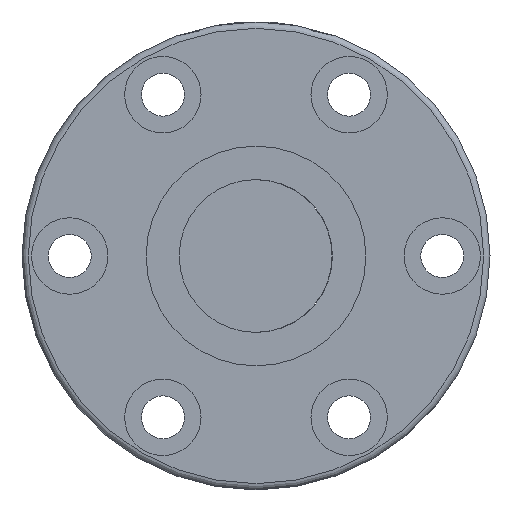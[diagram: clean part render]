
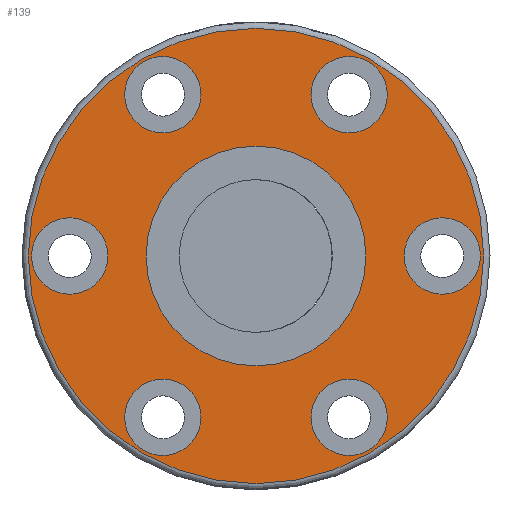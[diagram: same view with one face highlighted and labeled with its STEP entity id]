
A CAD part, front view. The second image highlights one B-rep face of the part: STEP entity #139.
In plain terms, the highlighted planar face has unit normal (0, -1, 0).
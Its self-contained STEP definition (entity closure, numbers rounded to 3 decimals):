
#113=PLANE('',#662);
#139=ADVANCED_FACE('',(#213,#214,#215,#216,#217,#218,#219,#220),#113,.F.);
#213=FACE_BOUND('',#310,.T.);
#214=FACE_BOUND('',#311,.T.);
#215=FACE_BOUND('',#312,.T.);
#216=FACE_BOUND('',#313,.T.);
#217=FACE_BOUND('',#314,.T.);
#218=FACE_BOUND('',#315,.T.);
#219=FACE_BOUND('',#316,.T.);
#220=FACE_BOUND('',#317,.T.);
#310=EDGE_LOOP('',(#408));
#311=EDGE_LOOP('',(#409));
#312=EDGE_LOOP('',(#410));
#313=EDGE_LOOP('',(#411));
#314=EDGE_LOOP('',(#412));
#315=EDGE_LOOP('',(#413));
#316=EDGE_LOOP('',(#414));
#317=EDGE_LOOP('',(#415));
#408=ORIENTED_EDGE('',*,*,#545,.T.);
#409=ORIENTED_EDGE('',*,*,#546,.T.);
#410=ORIENTED_EDGE('',*,*,#547,.T.);
#411=ORIENTED_EDGE('',*,*,#548,.T.);
#412=ORIENTED_EDGE('',*,*,#549,.T.);
#413=ORIENTED_EDGE('',*,*,#550,.T.);
#414=ORIENTED_EDGE('',*,*,#551,.T.);
#415=ORIENTED_EDGE('',*,*,#552,.F.);
#496=VERTEX_POINT('',#944);
#497=VERTEX_POINT('',#946);
#498=VERTEX_POINT('',#948);
#499=VERTEX_POINT('',#950);
#500=VERTEX_POINT('',#952);
#501=VERTEX_POINT('',#954);
#502=VERTEX_POINT('',#956);
#503=VERTEX_POINT('',#958);
#545=EDGE_CURVE('',#496,#496,#594,.T.);
#546=EDGE_CURVE('',#497,#497,#595,.T.);
#547=EDGE_CURVE('',#498,#498,#596,.T.);
#548=EDGE_CURVE('',#499,#499,#597,.T.);
#549=EDGE_CURVE('',#500,#500,#598,.T.);
#550=EDGE_CURVE('',#501,#501,#599,.T.);
#551=EDGE_CURVE('',#502,#502,#600,.T.);
#552=EDGE_CURVE('',#503,#503,#601,.T.);
#594=CIRCLE('',#654,4.);
#595=CIRCLE('',#655,4.);
#596=CIRCLE('',#656,4.);
#597=CIRCLE('',#657,4.);
#598=CIRCLE('',#658,4.);
#599=CIRCLE('',#659,4.);
#600=CIRCLE('',#660,23.833);
#601=CIRCLE('',#661,11.5);
#654=AXIS2_PLACEMENT_3D('',#943,#769,#770);
#655=AXIS2_PLACEMENT_3D('',#945,#771,#772);
#656=AXIS2_PLACEMENT_3D('',#947,#773,#774);
#657=AXIS2_PLACEMENT_3D('',#949,#775,#776);
#658=AXIS2_PLACEMENT_3D('',#951,#777,#778);
#659=AXIS2_PLACEMENT_3D('',#953,#779,#780);
#660=AXIS2_PLACEMENT_3D('',#955,#781,#782);
#661=AXIS2_PLACEMENT_3D('',#957,#783,#784);
#662=AXIS2_PLACEMENT_3D('',#959,#785,#786);
#769=DIRECTION('',(0.,1.,0.));
#770=DIRECTION('',(0.,0.,1.));
#771=DIRECTION('',(0.,1.,0.));
#772=DIRECTION('',(0.,0.,1.));
#773=DIRECTION('',(0.,1.,0.));
#774=DIRECTION('',(0.,0.,1.));
#775=DIRECTION('',(0.,1.,0.));
#776=DIRECTION('',(0.,0.,1.));
#777=DIRECTION('',(0.,1.,0.));
#778=DIRECTION('',(0.,0.,1.));
#779=DIRECTION('',(0.,1.,0.));
#780=DIRECTION('',(0.,0.,1.));
#781=DIRECTION('',(0.,-1.,0.));
#782=DIRECTION('',(0.,0.,1.));
#783=DIRECTION('',(0.,-1.,0.));
#784=DIRECTION('',(1.,0.,0.));
#785=DIRECTION('',(0.,1.,0.));
#786=DIRECTION('',(0.,0.,1.));
#943=CARTESIAN_POINT('',(19.539,-22.461,0.));
#944=CARTESIAN_POINT('',(19.539,-22.461,4.));
#945=CARTESIAN_POINT('',(-19.461,-22.461,0.));
#946=CARTESIAN_POINT('',(-19.461,-22.461,4.));
#947=CARTESIAN_POINT('',(9.789,-22.461,-16.887));
#948=CARTESIAN_POINT('',(9.789,-22.461,-12.887));
#949=CARTESIAN_POINT('',(-9.711,-22.461,-16.887));
#950=CARTESIAN_POINT('',(-9.711,-22.461,-12.887));
#951=CARTESIAN_POINT('',(9.789,-22.461,16.887));
#952=CARTESIAN_POINT('',(9.789,-22.461,20.887));
#953=CARTESIAN_POINT('',(-9.711,-22.461,16.887));
#954=CARTESIAN_POINT('',(-9.711,-22.461,20.887));
#955=CARTESIAN_POINT('',(0.039,-22.461,0.));
#956=CARTESIAN_POINT('',(0.039,-22.461,23.833));
#957=CARTESIAN_POINT('',(0.039,-22.461,0.));
#958=CARTESIAN_POINT('',(11.539,-22.461,0.));
#959=CARTESIAN_POINT('',(0.039,-22.461,0.));
